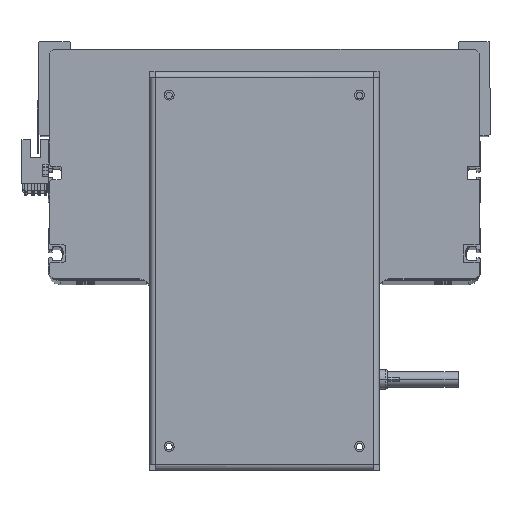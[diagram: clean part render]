
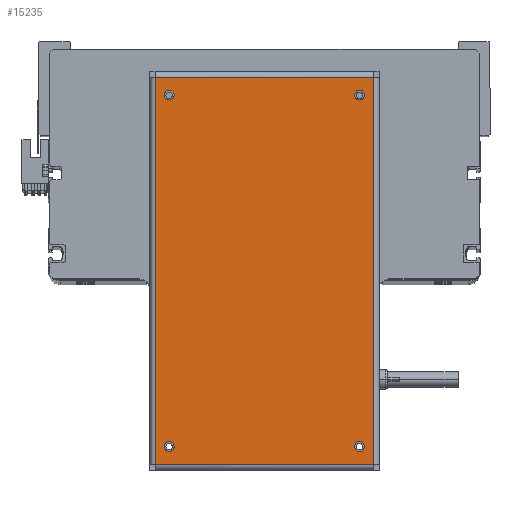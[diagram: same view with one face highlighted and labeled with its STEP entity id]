
A CAD part, top view. The second image highlights one B-rep face of the part: STEP entity #15235.
In plain terms, the highlighted planar face has unit normal (0, 0, 1).
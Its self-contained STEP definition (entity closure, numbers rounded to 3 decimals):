
#452 = CIRCLE ( 'NONE', #35592, 2.5 ) ;
#734 = AXIS2_PLACEMENT_3D ( 'NONE', #36291, #8276, #36431 ) ;
#745 = AXIS2_PLACEMENT_3D ( 'NONE', #14606, #17513, #4650 ) ;
#827 = EDGE_CURVE ( 'NONE', #36739, #9283, #34921, .T. ) ;
#1875 = LINE ( 'NONE', #29858, #22589 ) ;
#2648 = CARTESIAN_POINT ( 'NONE',  ( -89.55, -48.5, 0. ) ) ;
#2697 = DIRECTION ( 'NONE',  ( 1., 0., 0. ) ) ;
#2715 = CARTESIAN_POINT ( 'NONE',  ( -87.05, 48.5, 0. ) ) ;
#3070 = ORIENTED_EDGE ( 'NONE', *, *, #17662, .F. ) ;
#3981 = VERTEX_POINT ( 'NONE', #8858 ) ;
#4101 = CIRCLE ( 'NONE', #4574, 2.5 ) ;
#4409 = AXIS2_PLACEMENT_3D ( 'NONE', #35664, #16871, #35133 ) ;
#4574 = AXIS2_PLACEMENT_3D ( 'NONE', #22668, #23073, #10577 ) ;
#4650 = DIRECTION ( 'NONE',  ( 1., 0., 0. ) ) ;
#5560 = EDGE_CURVE ( 'NONE', #38362, #36516, #452, .T. ) ;
#5643 = DIRECTION ( 'NONE',  ( 1., 0., 0. ) ) ;
#5837 = DIRECTION ( 'NONE',  ( 1., 0., 0. ) ) ;
#5905 = CARTESIAN_POINT ( 'NONE',  ( -92.05, 48.5, 0. ) ) ;
#6384 = DIRECTION ( 'NONE',  ( 0., -1., 0. ) ) ;
#6521 = EDGE_CURVE ( 'NONE', #15925, #34382, #13672, .T. ) ;
#7580 = AXIS2_PLACEMENT_3D ( 'NONE', #2648, #24727, #5837 ) ;
#8276 = DIRECTION ( 'NONE',  ( 0., 0., 1. ) ) ;
#8471 = ORIENTED_EDGE ( 'NONE', *, *, #26645, .F. ) ;
#8858 = CARTESIAN_POINT ( 'NONE',  ( 92.05, -48.5, 0. ) ) ;
#8897 = CARTESIAN_POINT ( 'NONE',  ( -92.05, -48.5, 0. ) ) ;
#8970 = EDGE_LOOP ( 'NONE', ( #36757, #10316, #33145, #12081 ) ) ;
#9283 = VERTEX_POINT ( 'NONE', #27356 ) ;
#10316 = ORIENTED_EDGE ( 'NONE', *, *, #26480, .T. ) ;
#10577 = DIRECTION ( 'NONE',  ( 1., 0., 0. ) ) ;
#11053 = DIRECTION ( 'NONE',  ( 1., 0., 0. ) ) ;
#12081 = ORIENTED_EDGE ( 'NONE', *, *, #21481, .T. ) ;
#12226 = DIRECTION ( 'NONE',  ( 0., 0., 1. ) ) ;
#12274 = FACE_BOUND ( 'NONE', #18635, .T. ) ;
#12996 = DIRECTION ( 'NONE',  ( 0., 0., -1. ) ) ;
#13415 = VERTEX_POINT ( 'NONE', #30401 ) ;
#13672 = CIRCLE ( 'NONE', #21210, 2.5 ) ;
#14606 = CARTESIAN_POINT ( 'NONE',  ( 89.55, -48.5, 0. ) ) ;
#14763 = CARTESIAN_POINT ( 'NONE',  ( 87.05, -48.5, 0. ) ) ;
#15235 = ADVANCED_FACE ( 'NONE', ( #29449, #12274, #21139, #28016, #36829 ), #31802, .F. ) ;
#15599 = LINE ( 'NONE', #20221, #40643 ) ;
#15737 = LINE ( 'NONE', #26897, #28510 ) ;
#15925 = VERTEX_POINT ( 'NONE', #2715 ) ;
#16446 = CARTESIAN_POINT ( 'NONE',  ( 98.75, 58.5, 0. ) ) ;
#16530 = CIRCLE ( 'NONE', #7580, 2.5 ) ;
#16871 = DIRECTION ( 'NONE',  ( 0., 0., 1. ) ) ;
#16971 = DIRECTION ( 'NONE',  ( 1., 0., 0. ) ) ;
#17212 = CARTESIAN_POINT ( 'NONE',  ( -98.65, 55.6, 0. ) ) ;
#17513 = DIRECTION ( 'NONE',  ( 0., 0., 1. ) ) ;
#17662 = EDGE_CURVE ( 'NONE', #26273, #40430, #16530, .T. ) ;
#18146 = CARTESIAN_POINT ( 'NONE',  ( -98.65, 55.6, 0. ) ) ;
#18635 = EDGE_LOOP ( 'NONE', ( #38192, #8471 ) ) ;
#18926 = EDGE_CURVE ( 'NONE', #36516, #38362, #28198, .T. ) ;
#18985 = CARTESIAN_POINT ( 'NONE',  ( 89.55, 48.5, 0. ) ) ;
#19150 = EDGE_CURVE ( 'NONE', #32815, #3981, #26726, .T. ) ;
#19599 = AXIS2_PLACEMENT_3D ( 'NONE', #33933, #24644, #16971 ) ;
#19729 = ORIENTED_EDGE ( 'NONE', *, *, #18926, .F. ) ;
#20083 = CARTESIAN_POINT ( 'NONE',  ( 87.05, 48.5, 0. ) ) ;
#20113 = EDGE_LOOP ( 'NONE', ( #39649, #3070 ) ) ;
#20221 = CARTESIAN_POINT ( 'NONE',  ( 98.65, -55.6, 0. ) ) ;
#21025 = DIRECTION ( 'NONE',  ( -1., 0., 0. ) ) ;
#21139 = FACE_BOUND ( 'NONE', #35072, .T. ) ;
#21210 = AXIS2_PLACEMENT_3D ( 'NONE', #27663, #31225, #5643 ) ;
#21409 = ORIENTED_EDGE ( 'NONE', *, *, #5560, .F. ) ;
#21481 = EDGE_CURVE ( 'NONE', #21806, #36739, #15737, .T. ) ;
#21806 = VERTEX_POINT ( 'NONE', #22756 ) ;
#22589 = VECTOR ( 'NONE', #11053, 1000. ) ;
#22668 = CARTESIAN_POINT ( 'NONE',  ( 89.55, -48.5, 0. ) ) ;
#22756 = CARTESIAN_POINT ( 'NONE',  ( 98.65, 55.6, 0. ) ) ;
#23073 = DIRECTION ( 'NONE',  ( 0., 0., 1. ) ) ;
#24644 = DIRECTION ( 'NONE',  ( 0., 0., 1. ) ) ;
#24727 = DIRECTION ( 'NONE',  ( 0., 0., 1. ) ) ;
#25638 = CARTESIAN_POINT ( 'NONE',  ( 92.05, 48.5, 0. ) ) ;
#26273 = VERTEX_POINT ( 'NONE', #8897 ) ;
#26469 = CIRCLE ( 'NONE', #734, 2.5 ) ;
#26480 = EDGE_CURVE ( 'NONE', #9283, #13415, #1875, .T. ) ;
#26645 = EDGE_CURVE ( 'NONE', #34382, #15925, #26469, .T. ) ;
#26726 = CIRCLE ( 'NONE', #745, 2.5 ) ;
#26897 = CARTESIAN_POINT ( 'NONE',  ( 98.75, 55.6, 0. ) ) ;
#27356 = CARTESIAN_POINT ( 'NONE',  ( -98.65, -55.6, 0. ) ) ;
#27663 = CARTESIAN_POINT ( 'NONE',  ( -89.55, 48.5, 0. ) ) ;
#27706 = CIRCLE ( 'NONE', #19599, 2.5 ) ;
#28016 = FACE_BOUND ( 'NONE', #32309, .T. ) ;
#28198 = CIRCLE ( 'NONE', #4409, 2.5 ) ;
#28510 = VECTOR ( 'NONE', #21025, 1000. ) ;
#28533 = DIRECTION ( 'NONE',  ( -1., 0., 0. ) ) ;
#29449 = FACE_BOUND ( 'NONE', #20113, .T. ) ;
#29654 = EDGE_CURVE ( 'NONE', #40430, #26273, #27706, .T. ) ;
#29858 = CARTESIAN_POINT ( 'NONE',  ( -98.75, -55.6, 0. ) ) ;
#30401 = CARTESIAN_POINT ( 'NONE',  ( 98.65, -55.6, 0. ) ) ;
#30516 = VECTOR ( 'NONE', #6384, 1000. ) ;
#31225 = DIRECTION ( 'NONE',  ( 0., 0., 1. ) ) ;
#31414 = CARTESIAN_POINT ( 'NONE',  ( -87.05, -48.5, 0. ) ) ;
#31802 = PLANE ( 'NONE',  #36473 ) ;
#32309 = EDGE_LOOP ( 'NONE', ( #19729, #21409 ) ) ;
#32670 = DIRECTION ( 'NONE',  ( 0., 1., 0. ) ) ;
#32815 = VERTEX_POINT ( 'NONE', #14763 ) ;
#33012 = EDGE_CURVE ( 'NONE', #3981, #32815, #4101, .T. ) ;
#33145 = ORIENTED_EDGE ( 'NONE', *, *, #38428, .T. ) ;
#33933 = CARTESIAN_POINT ( 'NONE',  ( -89.55, -48.5, 0. ) ) ;
#33958 = ORIENTED_EDGE ( 'NONE', *, *, #33012, .F. ) ;
#34382 = VERTEX_POINT ( 'NONE', #5905 ) ;
#34921 = LINE ( 'NONE', #18146, #30516 ) ;
#35072 = EDGE_LOOP ( 'NONE', ( #33958, #40322 ) ) ;
#35133 = DIRECTION ( 'NONE',  ( 1., 0., 0. ) ) ;
#35592 = AXIS2_PLACEMENT_3D ( 'NONE', #18985, #12226, #2697 ) ;
#35664 = CARTESIAN_POINT ( 'NONE',  ( 89.55, 48.5, 0. ) ) ;
#36291 = CARTESIAN_POINT ( 'NONE',  ( -89.55, 48.5, 0. ) ) ;
#36431 = DIRECTION ( 'NONE',  ( 1., 0., 0. ) ) ;
#36473 = AXIS2_PLACEMENT_3D ( 'NONE', #16446, #12996, #28533 ) ;
#36516 = VERTEX_POINT ( 'NONE', #25638 ) ;
#36739 = VERTEX_POINT ( 'NONE', #17212 ) ;
#36757 = ORIENTED_EDGE ( 'NONE', *, *, #827, .T. ) ;
#36829 = FACE_OUTER_BOUND ( 'NONE', #8970, .T. ) ;
#38192 = ORIENTED_EDGE ( 'NONE', *, *, #6521, .F. ) ;
#38362 = VERTEX_POINT ( 'NONE', #20083 ) ;
#38428 = EDGE_CURVE ( 'NONE', #13415, #21806, #15599, .T. ) ;
#39649 = ORIENTED_EDGE ( 'NONE', *, *, #29654, .F. ) ;
#40322 = ORIENTED_EDGE ( 'NONE', *, *, #19150, .F. ) ;
#40430 = VERTEX_POINT ( 'NONE', #31414 ) ;
#40643 = VECTOR ( 'NONE', #32670, 1000. ) ;
